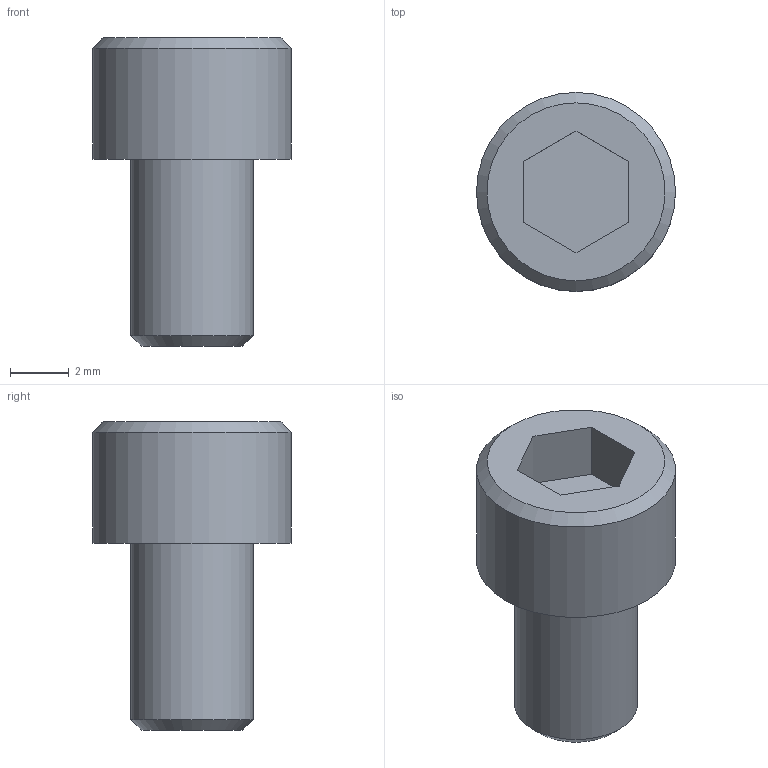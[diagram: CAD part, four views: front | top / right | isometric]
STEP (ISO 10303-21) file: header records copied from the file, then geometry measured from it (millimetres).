
FILE_DESCRIPTION((''),'2;1');
FILE_NAME('C:\Users\Stan\Desktop\import\SHCS 8-32 UNCx0.25.ipt.step','2011-08-18T17:45:25',(''),(''),'Autodesk Inventor 2012','Autodesk Inventor 2012','');
FILE_SCHEMA(('AUTOMOTIVE_DESIGN { 1 0 10303 214 1 1 1 1 }'));
Length unit declared in the file: inch
Products named in the file (1): SHCS 8-32 UNCx0.25
Bounding box: 6.76 x 6.76 x 10.46 mm (x, y, z)
Volume: 210.3 mm3; surface area: 258.9 mm2
Topology: 1 solids, 1 shells, 14 faces, 28 edges, 18 vertices
Faces by surface type: plane 10, cone 2, cylinder 2
Full cylindrical faces by diameter (mm): 4.166 x1, 6.756 x1
Entity records: 391 total; most frequent: DIRECTION 60, CARTESIAN_POINT 57, ORIENTED_EDGE 48, EDGE_CURVE 24, AXIS2_PLACEMENT_3D 21, EDGE_LOOP 20, VERTEX_POINT 18, VECTOR 18
